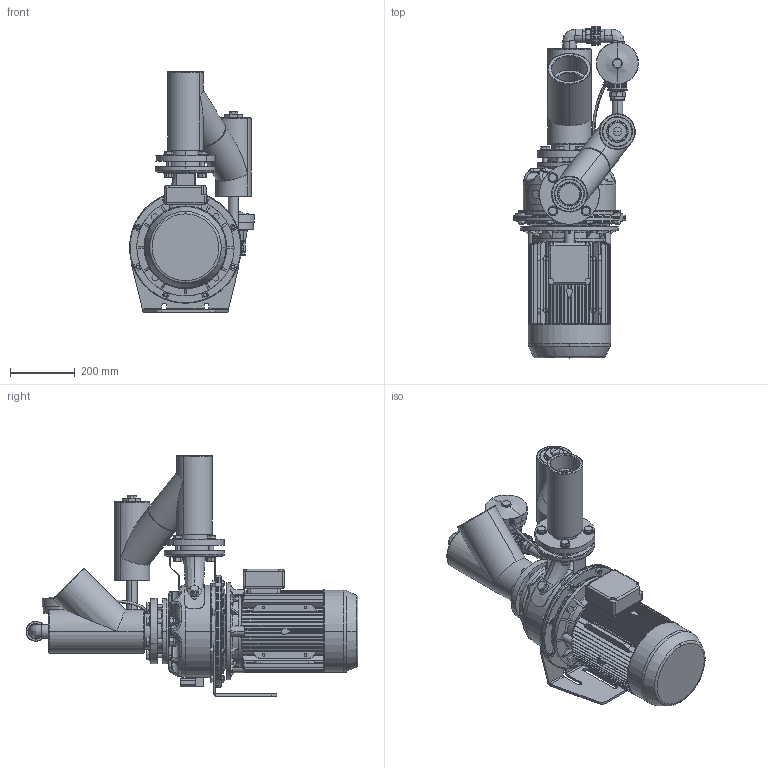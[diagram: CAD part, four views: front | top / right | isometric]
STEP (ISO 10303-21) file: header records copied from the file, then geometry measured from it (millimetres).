
FILE_DESCRIPTION (( 'STEP AP203' ), '1' );
FILE_NAME ('Lowara SHE 65-250 z.a.z auto. by-pass.STEP', '2011-04-08T06:02:35', ( '' ), ( '' ), 'SwSTEP 2.0', 'SolidWorks 2010', '' );
FILE_SCHEMA (( 'CONFIG_CONTROL_DESIGN' ));
Products named in the file (1): Lowara SHE 65-250 z.a.z auto. by-pass
Bounding box: 385.5 x 1023.95 x 741.24 mm (x, y, z)
Volume: 38946610.9 mm3; surface area: 3537766.3 mm2
Topology: 82 solids, 84 shells, 3387 faces, 8528 edges, 5317 vertices
Faces by surface type: plane 1274, cylinder 1005, cone 615, bspline 451, torus 42
Entity records: 150708 total; most frequent: CARTESIAN_POINT 74581, ORIENTED_EDGE 16868, DIRECTION 14574, EDGE_CURVE 8434, AXIS2_PLACEMENT_3D 5760, VERTEX_POINT 5321, EDGE_LOOP 3733, FACE_OUTER_BOUND 3387
